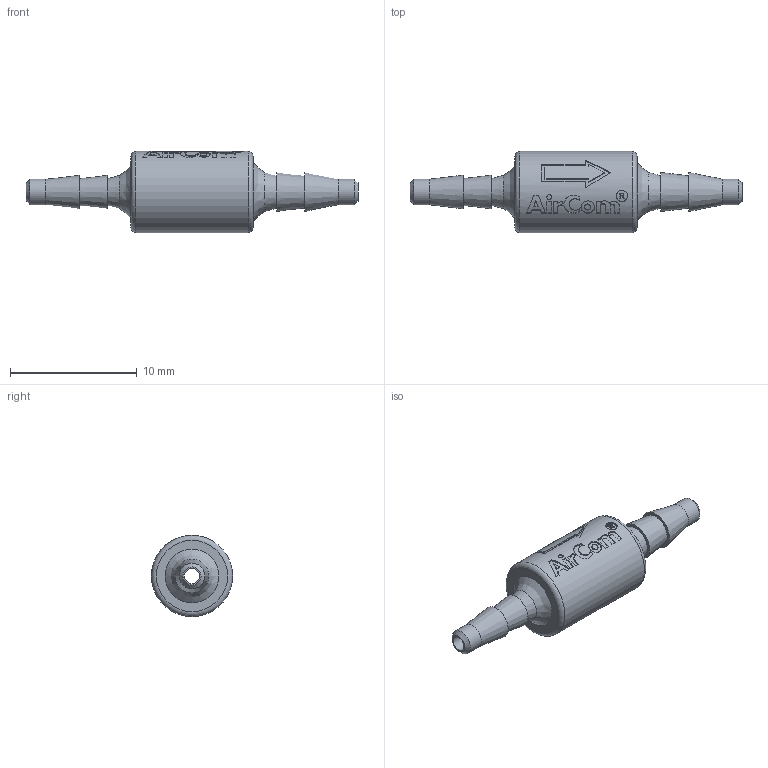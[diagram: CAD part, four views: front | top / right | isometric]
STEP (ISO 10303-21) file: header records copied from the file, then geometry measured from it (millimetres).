
FILE_DESCRIPTION((''),'2;1');
FILE_NAME('F:\AirCom-Produktdokumentation\Ventile diverse\Drossel\F950\CAD\CAD AirCom\3D\B-F950-B80.stp','2007-09-07T11:39:28',('Frank Schroers'),(''),'Autodesk Inventor 2008','Autodesk Inventor 2008','');
FILE_SCHEMA(('AUTOMOTIVE_DESIGN { 1 0 10303 214 1 1 1 1 }'));
Length unit declared in the file: millimetre
Products named in the file (1): B-F950-B80
Bounding box: 26.21 x 6.4 x 6.4 mm (x, y, z)
Volume: 365.3 mm3; surface area: 476.7 mm2
Topology: 1 solids, 1 shells, 111 faces, 259 edges, 170 vertices
Faces by surface type: plane 55, bspline 28, cylinder 18, cone 8, torus 2
Full cylindrical faces by diameter (mm): 1.2 x1, 2.015 x2, 6.403 x1
Entity records: 10670 total; most frequent: CARTESIAN_POINT 8363, ORIENTED_EDGE 486, DIRECTION 377, EDGE_CURVE 243, VERTEX_POINT 170, EDGE_LOOP 149, AXIS2_PLACEMENT_3D 137, FACE_OUTER_BOUND 111
